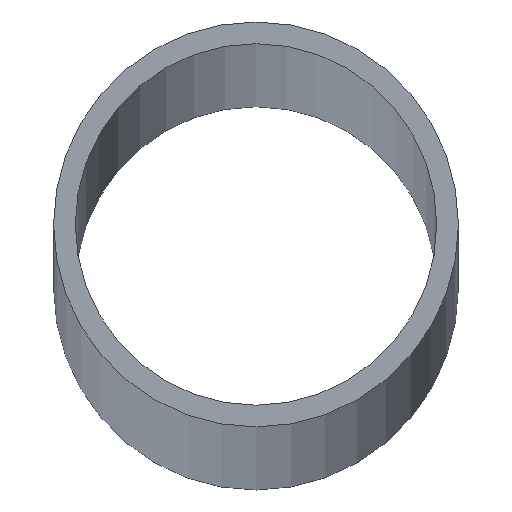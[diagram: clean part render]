
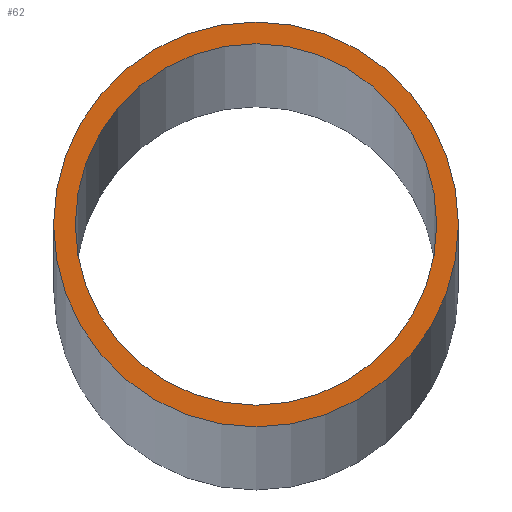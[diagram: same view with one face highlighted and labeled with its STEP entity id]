
A CAD part, top view. The second image highlights one B-rep face of the part: STEP entity #62.
In plain terms, the highlighted planar face has unit normal (0, 0, 1).
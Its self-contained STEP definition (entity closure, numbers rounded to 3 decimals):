
#15=PLANE('',#90);
#19=FACE_BOUND('',#31,.T.);
#23=FACE_OUTER_BOUND('',#30,.T.);
#30=EDGE_LOOP('',(#50));
#31=EDGE_LOOP('',(#51));
#32=CIRCLE('',#84,25.);
#34=CIRCLE('',#87,28.);
#36=VERTEX_POINT('',#111);
#38=VERTEX_POINT('',#116);
#40=EDGE_CURVE('',#36,#36,#32,.T.);
#42=EDGE_CURVE('',#38,#38,#34,.T.);
#50=ORIENTED_EDGE('',*,*,#42,.T.);
#51=ORIENTED_EDGE('',*,*,#40,.T.);
#62=ADVANCED_FACE('',(#23,#19),#15,.T.);
#84=AXIS2_PLACEMENT_3D('',#112,#95,#96);
#87=AXIS2_PLACEMENT_3D('',#117,#101,#102);
#90=AXIS2_PLACEMENT_3D('',#121,#107,#108);
#95=DIRECTION('center_axis',(0.,0.,-1.));
#96=DIRECTION('ref_axis',(-1.,0.,0.));
#101=DIRECTION('center_axis',(0.,0.,1.));
#102=DIRECTION('ref_axis',(-1.,0.,0.));
#107=DIRECTION('center_axis',(0.,0.,1.));
#108=DIRECTION('ref_axis',(1.,0.,0.));
#111=CARTESIAN_POINT('',(25.,0.,5000.));
#112=CARTESIAN_POINT('Origin',(0.,0.,5000.));
#116=CARTESIAN_POINT('',(28.,0.,5000.));
#117=CARTESIAN_POINT('Origin',(0.,0.,5000.));
#121=CARTESIAN_POINT('Origin',(0.,0.,5000.));
